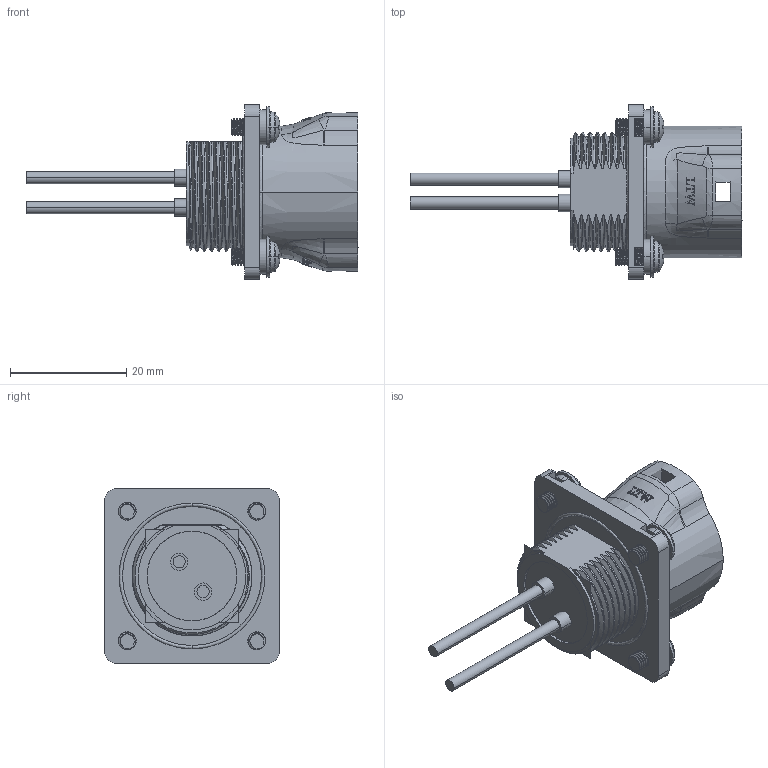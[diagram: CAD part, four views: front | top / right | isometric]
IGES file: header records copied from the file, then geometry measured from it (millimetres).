
Start section:  PTC IGES file: CD-02RFMC-RS7BXX.igs
Global section: file name: CD-02RFMC-RS7BXX.igs; native system: Creo Parametric by Parametric Technology Corporation; preprocessor: 2013050; author: KS7307; organization: Unknown; date: 20150829.134000; units: millimetre
Bounding box: 57.1 x 30 x 30 mm (x, y, z)
Volume: 9303.5 mm3; surface area: 7867 mm2
Topology: 1 solids, 6 shells, 1014 faces, 2817 edges, 1858 vertices
Faces by surface type: bspline 600, revolution 369, extrusion 45
